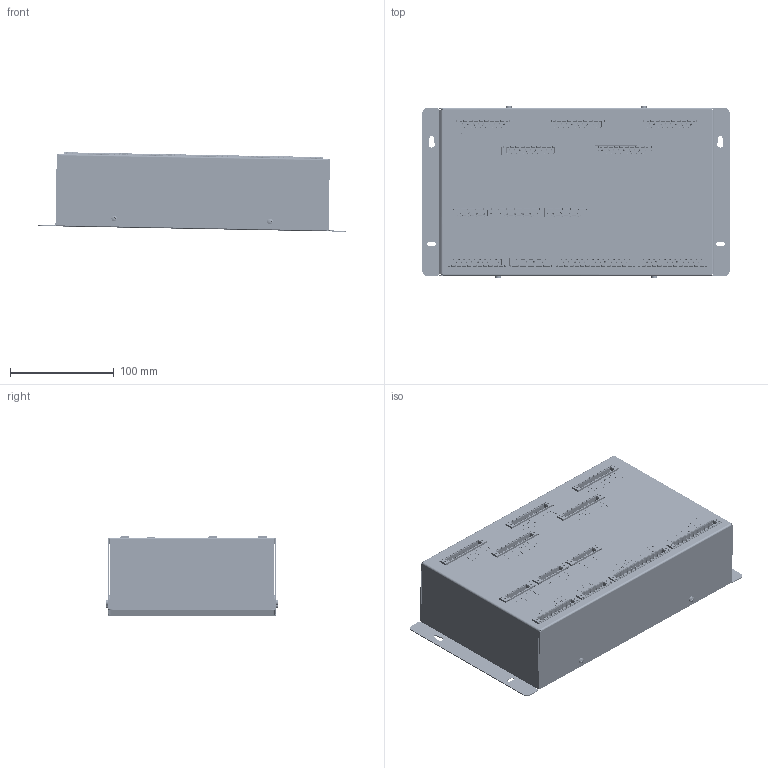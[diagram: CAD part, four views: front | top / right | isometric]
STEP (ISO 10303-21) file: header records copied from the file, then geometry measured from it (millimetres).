
FILE_DESCRIPTION (( 'STEP AP203' ), '1' );
FILE_NAME ('軞巠饜ん.STEP', '2025-03-12T01:58:55', ( '' ), ( '' ), 'SwSTEP 2.0', 'SolidWorks 2018', '' );
FILE_SCHEMA (( 'CONFIG_CONTROL_DESIGN' ));
Products named in the file (8): 10032012-9pin-5.08; 10030745-11pin-5.08; GBT 823 M3×8_GB_CROSS_SCREWS_TYPE3 M3X8-8-N; 10032014-APIN-7.62; 10030751-13pin-5.08; 8LD.062.0334; 5LD.300.0231; 軞巠饜ん
Assembly tree (18 placements, depth 2):
  軞巠饜ん
    10032012-9pin-5.08  x6
    10032014-APIN-7.62  x4
    10030751-13pin-5.08
    10030745-11pin-5.08
    GBT 823 M3×8_GB_CROSS_SCREWS_TYPE3 M3X8-8-N  x4
    5LD.300.0231
    8LD.062.0334
Bounding box: 295.97 x 166.25 x 76.55 mm (x, y, z)
Volume: 183442.2 mm3; surface area: 353798.2 mm2
Topology: 140 solids, 140 shells, 17837 faces, 48398 edges, 32088 vertices
Faces by surface type: plane 11757, bspline 2710, cylinder 2686, cone 472, sphere 196, torus 16
Entity records: 532171 total; most frequent: CARTESIAN_POINT 284194, ORIENTED_EDGE 56746, DIRECTION 39813, EDGE_CURVE 28373, VECTOR 19931, LINE 19931, VERTEX_POINT 18836, EDGE_LOOP 11769
